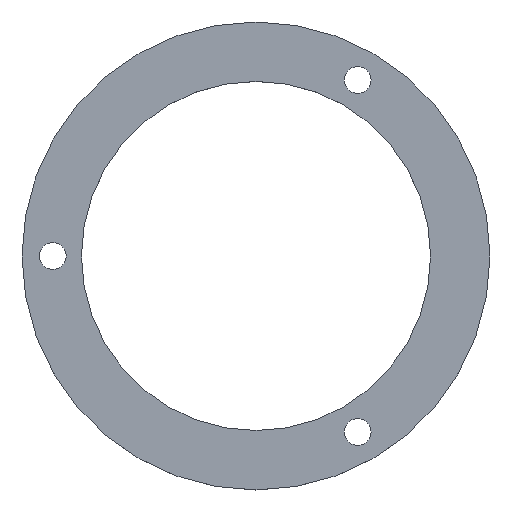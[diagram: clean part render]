
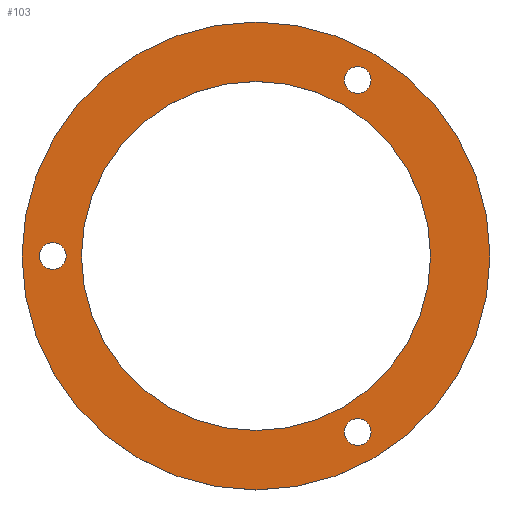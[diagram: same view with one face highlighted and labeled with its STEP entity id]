
A CAD part, top view. The second image highlights one B-rep face of the part: STEP entity #103.
In plain terms, the highlighted planar face has unit normal (0, 0, 1).
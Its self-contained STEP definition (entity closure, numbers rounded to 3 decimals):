
#24 = VERTEX_POINT('',#25);
#25 = CARTESIAN_POINT('',(30.5,0.,2.));
#31 = EDGE_CURVE('',#24,#24,#32,.T.);
#32 = CIRCLE('',#33,30.5);
#33 = AXIS2_PLACEMENT_3D('',#34,#35,#36);
#34 = CARTESIAN_POINT('',(0.,0.,2.));
#35 = DIRECTION('',(0.,0.,1.));
#36 = DIRECTION('',(1.,0.,0.));
#103 = ADVANCED_FACE('',(#104,#107,#118,#129,#140),#151,.T.);
#104 = FACE_BOUND('',#105,.T.);
#105 = EDGE_LOOP('',(#106));
#106 = ORIENTED_EDGE('',*,*,#31,.T.);
#107 = FACE_BOUND('',#108,.T.);
#108 = EDGE_LOOP('',(#109));
#109 = ORIENTED_EDGE('',*,*,#110,.F.);
#110 = EDGE_CURVE('',#111,#111,#113,.T.);
#111 = VERTEX_POINT('',#112);
#112 = CARTESIAN_POINT('',(12.375,-21.434,2.));
#113 = CIRCLE('',#114,1.75);
#114 = AXIS2_PLACEMENT_3D('',#115,#116,#117);
#115 = CARTESIAN_POINT('',(13.25,-22.95,2.));
#116 = DIRECTION('',(0.,0.,1.));
#117 = DIRECTION('',(-0.5,0.866,0.));
#118 = FACE_BOUND('',#119,.T.);
#119 = EDGE_LOOP('',(#120));
#120 = ORIENTED_EDGE('',*,*,#121,.F.);
#121 = EDGE_CURVE('',#122,#122,#124,.T.);
#122 = VERTEX_POINT('',#123);
#123 = CARTESIAN_POINT('',(-24.75,0.,2.));
#124 = CIRCLE('',#125,1.75);
#125 = AXIS2_PLACEMENT_3D('',#126,#127,#128);
#126 = CARTESIAN_POINT('',(-26.5,0.,2.));
#127 = DIRECTION('',(0.,0.,1.));
#128 = DIRECTION('',(1.,0.,0.));
#129 = FACE_BOUND('',#130,.T.);
#130 = EDGE_LOOP('',(#131));
#131 = ORIENTED_EDGE('',*,*,#132,.F.);
#132 = EDGE_CURVE('',#133,#133,#135,.T.);
#133 = VERTEX_POINT('',#134);
#134 = CARTESIAN_POINT('',(22.75,0.,2.));
#135 = CIRCLE('',#136,22.75);
#136 = AXIS2_PLACEMENT_3D('',#137,#138,#139);
#137 = CARTESIAN_POINT('',(0.,0.,2.));
#138 = DIRECTION('',(0.,0.,1.));
#139 = DIRECTION('',(1.,0.,0.));
#140 = FACE_BOUND('',#141,.T.);
#141 = EDGE_LOOP('',(#142));
#142 = ORIENTED_EDGE('',*,*,#143,.F.);
#143 = EDGE_CURVE('',#144,#144,#146,.T.);
#144 = VERTEX_POINT('',#145);
#145 = CARTESIAN_POINT('',(12.375,21.434,2.));
#146 = CIRCLE('',#147,1.75);
#147 = AXIS2_PLACEMENT_3D('',#148,#149,#150);
#148 = CARTESIAN_POINT('',(13.25,22.95,2.));
#149 = DIRECTION('',(0.,0.,1.));
#150 = DIRECTION('',(-0.5,-0.866,0.));
#151 = PLANE('',#152);
#152 = AXIS2_PLACEMENT_3D('',#153,#154,#155);
#153 = CARTESIAN_POINT('',(0.,0.,2.));
#154 = DIRECTION('',(0.,0.,1.));
#155 = DIRECTION('',(1.,0.,0.));
